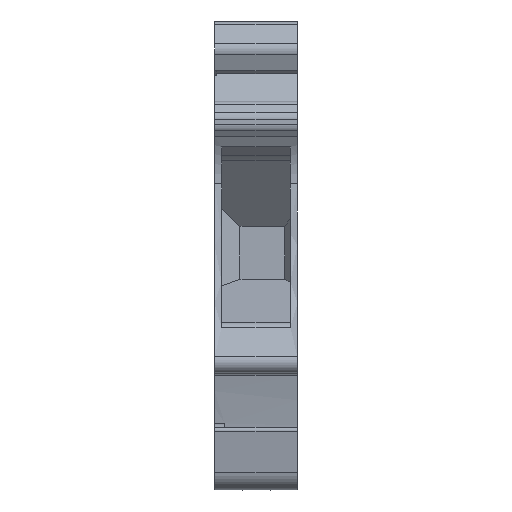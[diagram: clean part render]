
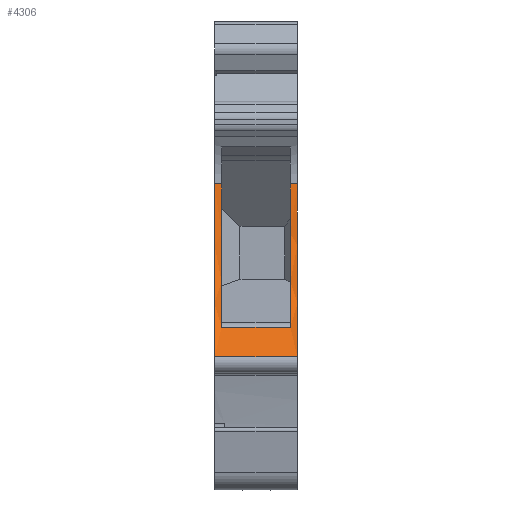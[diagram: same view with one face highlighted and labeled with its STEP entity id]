
A CAD part, left-side view. The second image highlights one B-rep face of the part: STEP entity #4306.
In plain terms, the highlighted cylindrical face has radius 35 mm (diameter 70 mm), a partial arc.
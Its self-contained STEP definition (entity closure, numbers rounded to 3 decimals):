
#153=CARTESIAN_POINT('',(-19.977,8.15,24.083));
#154=VERTEX_POINT('',#153);
#162=CARTESIAN_POINT('',(-26.314,8.15,7.081));
#163=VERTEX_POINT('',#162);
#164=CARTESIAN_POINT('',(-54.82,8.15,27.389));
#165=DIRECTION('',(0.814,0.,-0.58));
#166=DIRECTION('',(0.,-1.,0.));
#167=AXIS2_PLACEMENT_3D('',#164,#166,#165);
#168=CIRCLE('',#167,35.);
#169=EDGE_CURVE('',#163,#154,#168,.T.);
#3917=CARTESIAN_POINT('',(-19.977,7.45,24.083));
#3918=VERTEX_POINT('',#3917);
#3919=CARTESIAN_POINT('',(-24.443,7.45,10.003));
#3920=VERTEX_POINT('',#3919);
#3921=CARTESIAN_POINT('',(-54.82,7.45,27.389));
#3922=DIRECTION('',(0.996,0.,-0.094));
#3923=DIRECTION('',(0.,1.,0.));
#3924=AXIS2_PLACEMENT_3D('',#3921,#3923,#3922);
#3925=CIRCLE('',#3924,35.);
#3926=EDGE_CURVE('',#3918,#3920,#3925,.T.);
#3984=CARTESIAN_POINT('',(-24.443,0.7,10.003));
#3985=VERTEX_POINT('',#3984);
#3986=CARTESIAN_POINT('',(-19.977,0.7,24.083));
#3987=VERTEX_POINT('',#3986);
#3988=CARTESIAN_POINT('',(-54.82,0.7,27.389));
#3989=DIRECTION('',(0.868,0.,-0.497));
#3990=DIRECTION('',(0.,-1.,0.));
#3991=AXIS2_PLACEMENT_3D('',#3988,#3990,#3989);
#3992=CIRCLE('',#3991,35.);
#3993=EDGE_CURVE('',#3985,#3987,#3992,.T.);
#4058=CARTESIAN_POINT('',(-19.977,7.45,24.083));
#4059=DIRECTION('',(0.,1.,0.));
#4060=VECTOR('',#4059,0.7);
#4061=LINE('',#4058,#4060);
#4062=EDGE_CURVE('',#3918,#154,#4061,.T.);
#4066=CARTESIAN_POINT('',(-19.977,0.,24.083));
#4067=VERTEX_POINT('',#4066);
#4075=CARTESIAN_POINT('',(-19.977,0.,24.083));
#4076=DIRECTION('',(0.,1.,0.));
#4077=VECTOR('',#4076,0.7);
#4078=LINE('',#4075,#4077);
#4079=EDGE_CURVE('',#4067,#3987,#4078,.T.);
#4273=CARTESIAN_POINT('',(-54.82,8.15,27.389));
#4274=DIRECTION('',(0.814,0.,-0.58));
#4275=DIRECTION('',(0.,-1.,0.));
#4276=AXIS2_PLACEMENT_3D('',#4273,#4275,#4274);
#4277=CYLINDRICAL_SURFACE('',#4276,35.);
#4278=CARTESIAN_POINT('',(-26.314,0.,7.081));
#4279=VERTEX_POINT('',#4278);
#4280=CARTESIAN_POINT('',(-26.314,8.15,7.081));
#4281=DIRECTION('',(0.,-1.,0.));
#4282=VECTOR('',#4281,8.15);
#4283=LINE('',#4280,#4282);
#4284=EDGE_CURVE('',#163,#4279,#4283,.T.);
#4285=ORIENTED_EDGE('E265',*,*,#4284,.F.);
#4286=ORIENTED_EDGE('E265',*,*,#169,.T.);
#4287=ORIENTED_EDGE('E265',*,*,#4062,.F.);
#4288=ORIENTED_EDGE('E265',*,*,#3926,.T.);
#4289=CARTESIAN_POINT('',(-24.443,7.45,10.003));
#4290=DIRECTION('',(0.,-1.,0.));
#4291=VECTOR('',#4290,6.75);
#4292=LINE('',#4289,#4291);
#4293=EDGE_CURVE('',#3920,#3985,#4292,.T.);
#4294=ORIENTED_EDGE('E251',*,*,#4293,.T.);
#4295=ORIENTED_EDGE('E251',*,*,#3993,.T.);
#4296=ORIENTED_EDGE('E251',*,*,#4079,.F.);
#4297=CARTESIAN_POINT('',(-54.82,0.,27.389));
#4298=DIRECTION('',(0.996,0.,-0.094));
#4299=DIRECTION('',(0.,1.,0.));
#4300=AXIS2_PLACEMENT_3D('',#4297,#4299,#4298);
#4301=CIRCLE('',#4300,35.);
#4302=EDGE_CURVE('',#4067,#4279,#4301,.T.);
#4303=ORIENTED_EDGE('E895',*,*,#4302,.T.);
#4304=EDGE_LOOP('',(#4285,#4286,#4287,#4288,#4294,#4295,#4296,#4303));
#4305=FACE_OUTER_BOUND('',#4304,.F.);
#4306=ADVANCED_FACE('F83',(#4305),#4277,.F.);
